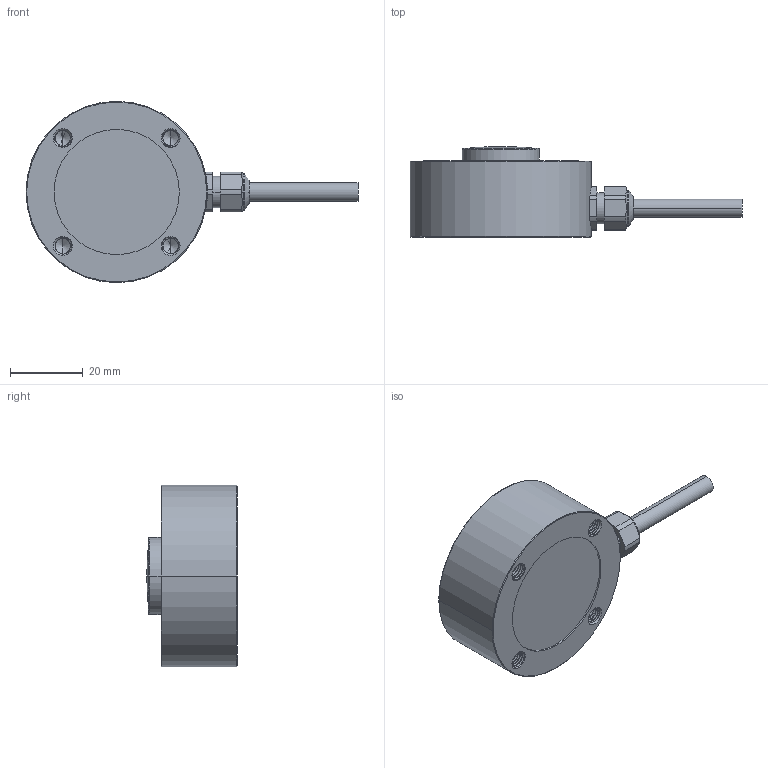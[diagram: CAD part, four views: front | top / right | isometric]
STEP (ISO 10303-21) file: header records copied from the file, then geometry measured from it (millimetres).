
FILE_DESCRIPTION (( 'STEP AP203' ), '1' );
FILE_NAME ('FC50-100KN.STEP', '2024-07-16T08:10:35', ( '' ), ( '' ), 'SwSTEP 2.0', 'SolidWorks 2019', '' );
FILE_SCHEMA (( 'CONFIG_CONTROL_DESIGN' ));
Length unit declared in the file: millimetre
Products named in the file (1): FC50-100KN
Bounding box: 91.5 x 25 x 50 mm (x, y, z)
Volume: 42307.3 mm3; surface area: 9550.7 mm2
Topology: 2 solids, 2 shells, 179 faces, 473 edges, 299 vertices
Faces by surface type: cylinder 106, cone 28, plane 25, bspline 12, torus 6, sphere 2
Entity records: 17278 total; most frequent: CARTESIAN_POINT 13320, ORIENTED_EDGE 930, DIRECTION 709, EDGE_CURVE 465, VERTEX_POINT 299, AXIS2_PLACEMENT_3D 266, EDGE_LOOP 188, ADVANCED_FACE 179
